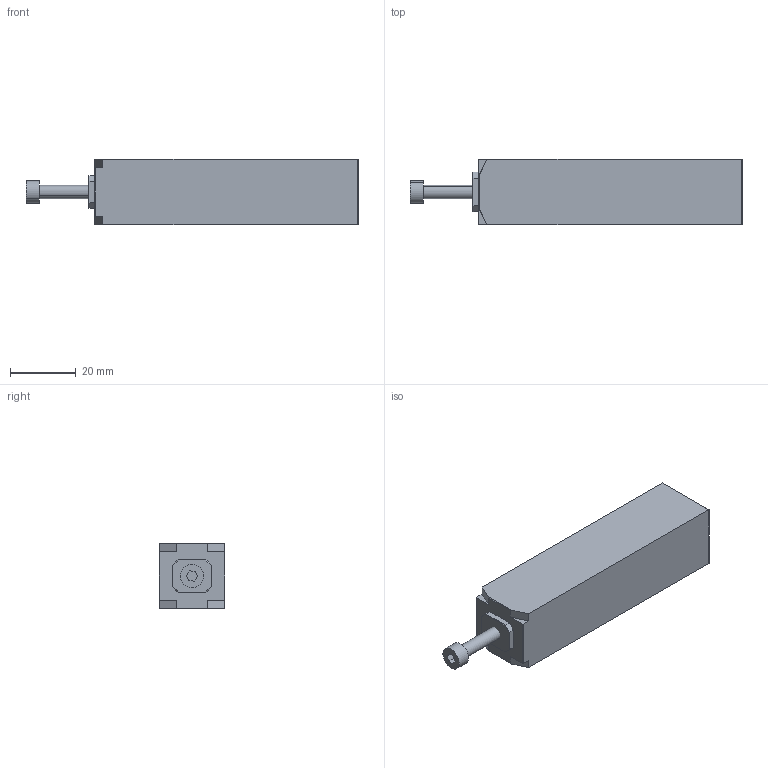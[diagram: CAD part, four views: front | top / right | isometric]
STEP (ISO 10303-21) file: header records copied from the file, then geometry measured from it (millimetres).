
FILE_DESCRIPTION (( 'STEP AP203' ), '1' );
FILE_NAME ('CSE25MMH-8L80.step', '2020-08-18T01:17:06', ( 'Microsoft Corporation' ), ( 'MS' ), 'SwSTEP 2.0', 'SolidWorks 2018', '' );
FILE_SCHEMA (( 'CONFIG_CONTROL_DESIGN' ));
Length unit declared in the file: millimetre
Products named in the file (3): CSE25MMH-8L80; SHCSM4-.7L22_SHCSM4-.7L22
Assembly tree (2 placements, depth 2):
  CSE25MMH-8L80
    CSE25MMH-8L80
    SHCSM4-.7L22_SHCSM4-.7L22
Bounding box: 100.8 x 20 x 20 mm (x, y, z)
Volume: 32434.1 mm3; surface area: 7815.1 mm2
Topology: 2 solids, 2 shells, 57 faces, 136 edges, 85 vertices
Faces by surface type: plane 45, cylinder 10, cone 2
Entity records: 1901 total; most frequent: CARTESIAN_POINT 293, ORIENTED_EDGE 268, DIRECTION 266, EDGE_CURVE 134, VECTOR 118, LINE 118, VERTEX_POINT 85, AXIS2_PLACEMENT_3D 74
